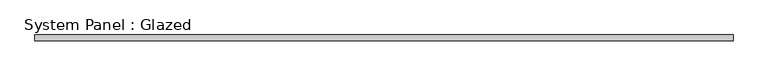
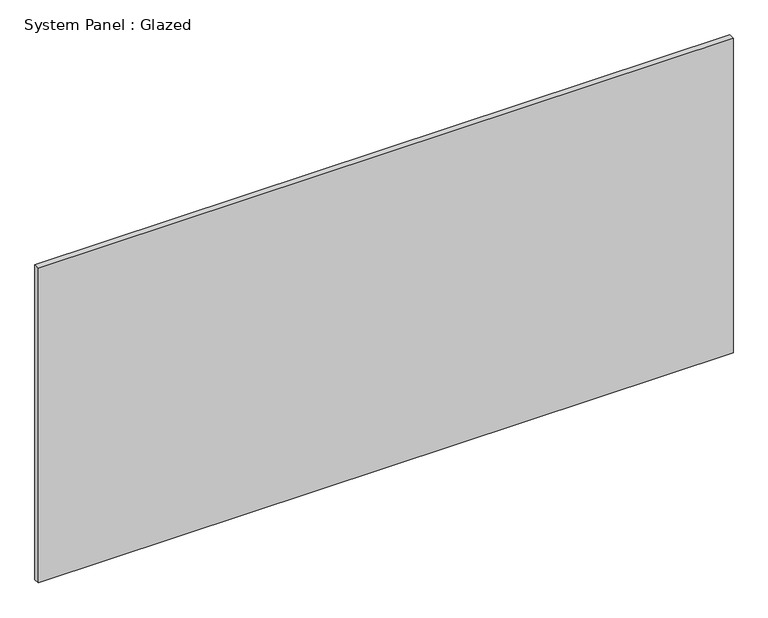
"""IFC4 building model written with IfcOpenShell, lengths in millimetres: plate geometry, System Panel : Glazed."""

from ifc_helpers import new_model, si_unit, origin, origin_with_axes, place, context, project, spatial, polyline, outline, extrude, source, transform, mapped, element, save


def system_panel_glazed_3620f98e(model_context):
    return source(origin(), model_context, "Body", "SweptSolid", [
        extrude(outline(polyline([(1492.25, 19.05), (-1492.25, 19.05), (-1492.25, 44.45), (1492.25, 44.45), (1492.25, 19.05)])), origin_with_axes(), (0.0, 0.0, 1.0), 1428.75),
    ])


if __name__ == "__main__":
    model = new_model("IFC4")
    model_context = context("Model", 3, world=origin())
    ifc_project = project(units=[si_unit("LENGTHUNIT", "METRE", prefix="MILLI")], contexts=[model_context])
    site = spatial("IfcSite", under=ifc_project)
    building = spatial("IfcBuilding", under=site)
    placement = place(None, origin())
    system_panel_glazed_shape = system_panel_glazed_3620f98e(model_context)
    element("IfcPlate", 1, ObjectType="System Panel : Glazed", at=placement, inside=building, context=model_context, shape_type="MappedRepresentation", body=[
        mapped(system_panel_glazed_shape, transform((0.0, 0.0, 0.0), x_axis=(1.0, 0.0, 0.0), y_axis=(0.0, 1.0, 0.0), z_axis=(0.0, 0.0, 1.0))),
    ])
    save(model, "model.ifc")
